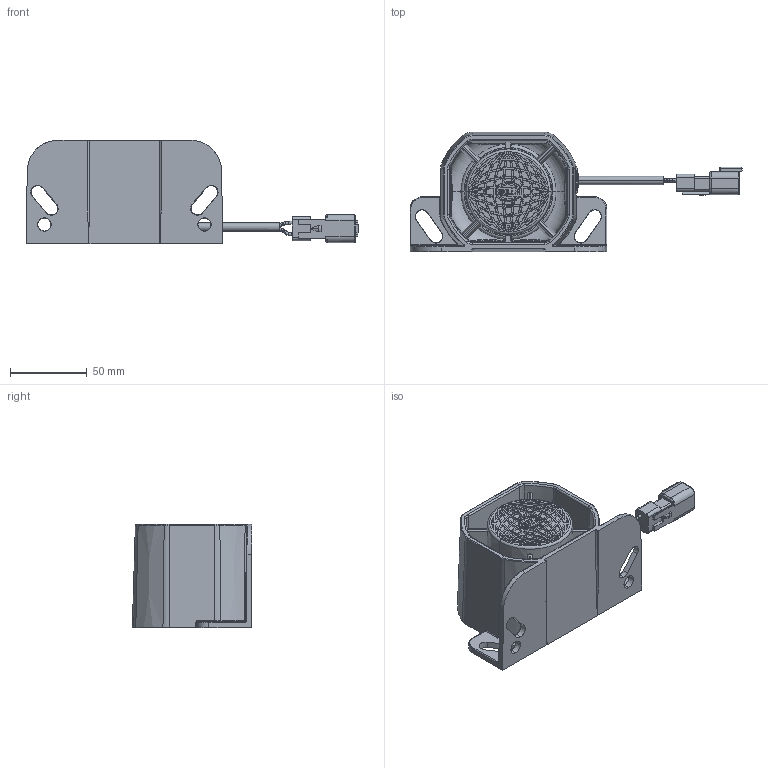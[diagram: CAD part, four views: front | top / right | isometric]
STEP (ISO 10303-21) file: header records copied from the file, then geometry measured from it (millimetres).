
FILE_DESCRIPTION(('CATIA V5 STEP Exchange','CAx-IF Rec.Pracs.--- Model Styling and Organization---1.5--- 2016-08-15','CAx-IF Rec.Pracs.---Supplemental Geometry---1.0---2011-11-01','CAx-IF Rec.Pracs.--- Composite Materials ---1.1---2010-07-15'),'2;1');
FILE_NAME('E:\tmp\ddx\2011226\HELLA_3D_Data_Reverse_and_warning_alarm_BM30_3SL 996 139-24.stp','2022-01-18T07:33:31+00:00',('none'),('none'),'CATIA Version 5-6 Release 2020 SP3 HF9','CATIA V5 STEP AP214 Edition 3 v2','none');
FILE_SCHEMA(('AUTOMOTIVE_DESIGN { 1 0 10303 214 3 1 1 1 }'));
Products named in the file (1): 10002624133_D10_001
Bounding box: 216.91 x 78 x 67.5 mm (x, y, z)
Volume: 184359 mm3; surface area: 108928.3 mm2
Topology: 1 solids, 1 shells, 1475 faces, 4400 edges, 2983 vertices
Faces by surface type: bspline 450, cone 429, plane 348, cylinder 144, torus 89, sphere 12, extrusion 3
Entity records: 61633 total; most frequent: CARTESIAN_POINT 28896, ORIENTED_EDGE 8744, EDGE_CURVE 4372, DIRECTION 3932, VERTEX_POINT 2983, B_SPLINE_CURVE_WITH_KNOTS 2079, AXIS2_PLACEMENT_3D 2034, EDGE_LOOP 1599
